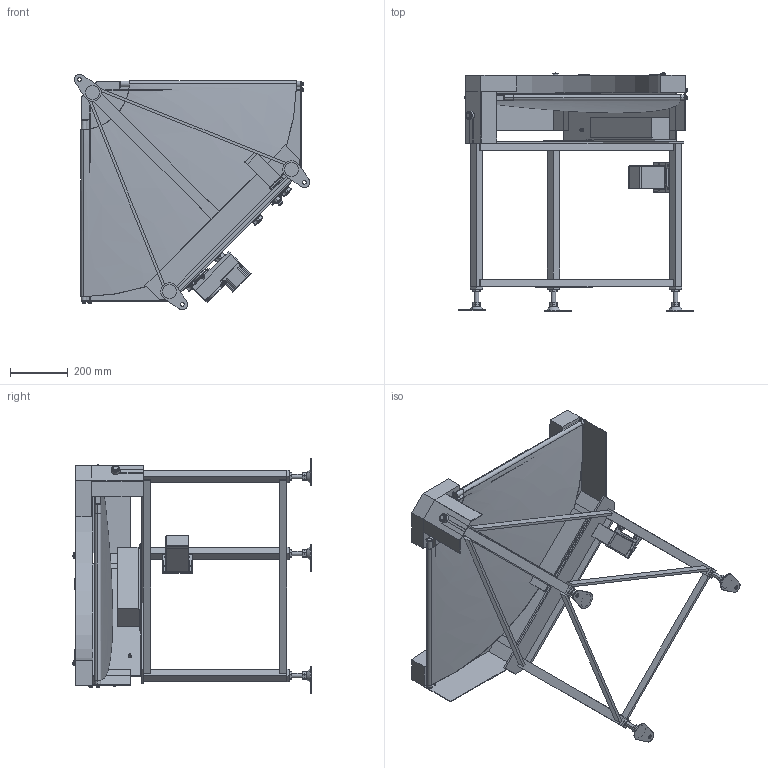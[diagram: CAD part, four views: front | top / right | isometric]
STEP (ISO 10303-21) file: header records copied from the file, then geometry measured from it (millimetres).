
FILE_DESCRIPTION( (''), '2;1');
FILE_NAME ('GBC-HS-309-500-90°-L-DC-30.stp','2025-02-03T11:44:05',(''),(''),'spGate 20.6.2 (****-****-****-****)','','');
FILE_SCHEMA (('AUTOMOTIVE_DESIGN'));
Length unit declared in the file: millimetre
Products named in the file (76): NewModel; TEMP_X_T-prt0; TEMP_X_T-prt1; TEMP_X_T-prt2; TEMP_X_T-prt3; TEMP_X_T-prt4; TEMP_X_T-prt5; TEMP_X_T-prt6; TEMP_X_T-prt7; TEMP_X_T-prt8; TEMP_X_T-prt9; TEMP_X_T-prt10; TEMP_X_T-prt11; TEMP_X_T-prt12; TEMP_X_T-prt13; TEMP_X_T-prt14; TEMP_X_T-prt15; TEMP_X_T-prt16; TEMP_X_T-prt17; TEMP_X_T-prt18; TEMP_X_T-prt19; TEMP_X_T-prt20; TEMP_X_T-prt21; TEMP_X_T-prt22; TEMP_X_T-prt23; TEMP_X_T-prt24; TEMP_X_T-prt25; TEMP_X_T-prt26; TEMP_X_T-prt27; TEMP_X_T-prt28; TEMP_X_T-prt29; TEMP_X_T-prt30; TEMP_X_T-prt31; TEMP_X_T-prt32; TEMP_X_T-prt33; TEMP_X_T-prt34; TEMP_X_T-prt35; TEMP_X_T-prt36; TEMP_X_T-prt37; TEMP_X_T-prt38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
Assembly tree (75 placements, depth 2):
  NewModel
    TEMP_X_T-prt0
    TEMP_X_T-prt1
    TEMP_X_T-prt2
    TEMP_X_T-prt3
    TEMP_X_T-prt4
    TEMP_X_T-prt5
    TEMP_X_T-prt6
    TEMP_X_T-prt7
    TEMP_X_T-prt8
    TEMP_X_T-prt9
    TEMP_X_T-prt10
    TEMP_X_T-prt11
    TEMP_X_T-prt12
    TEMP_X_T-prt13
    TEMP_X_T-prt14
    TEMP_X_T-prt15
    TEMP_X_T-prt16
    TEMP_X_T-prt17
    TEMP_X_T-prt18
    TEMP_X_T-prt19
    TEMP_X_T-prt20
    TEMP_X_T-prt21
    TEMP_X_T-prt22
    TEMP_X_T-prt23
    TEMP_X_T-prt24
    TEMP_X_T-prt25
    TEMP_X_T-prt26
    TEMP_X_T-prt27
    TEMP_X_T-prt28
    TEMP_X_T-prt29
    TEMP_X_T-prt30
    TEMP_X_T-prt31
    TEMP_X_T-prt32
    TEMP_X_T-prt33
    TEMP_X_T-prt34
    TEMP_X_T-prt35
    TEMP_X_T-prt36
    TEMP_X_T-prt37
    TEMP_X_T-prt38
    TEMP_X_T-prt39
    TEMP_X_T-prt40
    TEMP_X_T-prt41
    TEMP_X_T-prt42
    TEMP_X_T-prt43
    TEMP_X_T-prt44
    TEMP_X_T-prt45
    TEMP_X_T-prt46
    TEMP_X_T-prt47
    TEMP_X_T-prt48
    TEMP_X_T-prt49
    TEMP_X_T-prt50
    TEMP_X_T-prt51
    TEMP_X_T-prt52
    TEMP_X_T-prt53
    TEMP_X_T-prt54
    TEMP_X_T-prt55
    TEMP_X_T-prt56
    TEMP_X_T-prt57
    TEMP_X_T-prt58
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Bounding box: 818.52 x 827.92 x 818.52 mm (x, y, z)
Volume: 18945050.2 mm3; surface area: 4757703.8 mm2
Topology: 75 solids, 75 shells, 1462 faces, 3360 edges, 2110 vertices
Faces by surface type: plane 783, cylinder 405, bspline 264, sphere 10
Entity records: 79111 total; most frequent: CARTESIAN_POINT 16689, DIRECTION 6786, ORIENTED_EDGE 6664, COLOUR_RGB 4869, PRESENTATION_STYLE_ASSIGNMENT 4869, STYLED_ITEM 4869, EDGE_CURVE 3332, DRAUGHTING_PRE_DEFINED_CURVE_FONT 3332
